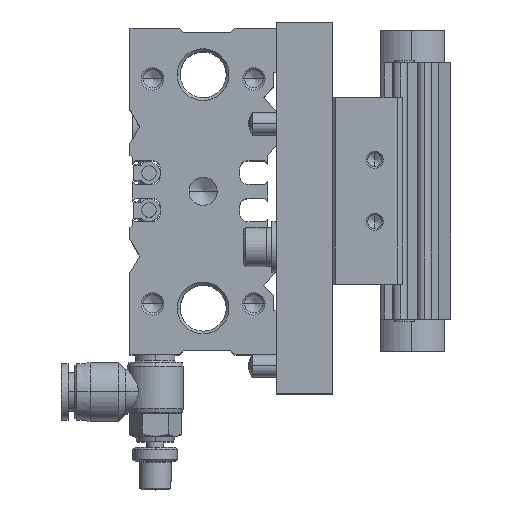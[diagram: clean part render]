
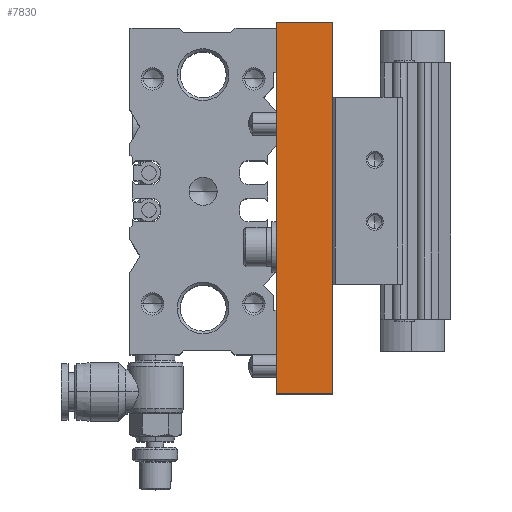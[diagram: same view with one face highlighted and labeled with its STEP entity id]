
A CAD part, top view. The second image highlights one B-rep face of the part: STEP entity #7830.
In plain terms, the highlighted planar face has unit normal (0, 0, 1) as drawn and (0, 1, 0) by its records, which use the part's own axes.
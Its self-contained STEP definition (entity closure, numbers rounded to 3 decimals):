
#417 = VECTOR ( 'NONE', #18205, 1000. ) ;
#635 = EDGE_CURVE ( 'NONE', #17243, #14979, #22818, .T. ) ;
#1192 = DIRECTION ( 'NONE',  ( 0., 0., 1. ) ) ;
#1520 = CARTESIAN_POINT ( 'NONE',  ( 66., 120., 0. ) ) ;
#1712 = ORIENTED_EDGE ( 'NONE', *, *, #4755, .F. ) ;
#2572 = CARTESIAN_POINT ( 'NONE',  ( 0., 120., 10. ) ) ;
#2879 = ORIENTED_EDGE ( 'NONE', *, *, #15925, .F. ) ;
#3436 = VECTOR ( 'NONE', #11821, 1000. ) ;
#3628 = DIRECTION ( 'NONE',  ( -1., 0., 0. ) ) ;
#3687 = CARTESIAN_POINT ( 'NONE',  ( 0., 120., 0. ) ) ;
#4580 = LINE ( 'NONE', #22895, #417 ) ;
#4755 = EDGE_CURVE ( 'NONE', #7165, #17243, #23886, .T. ) ;
#4986 = DIRECTION ( 'NONE',  ( 0., 0., -1. ) ) ;
#5132 = VECTOR ( 'NONE', #1192, 1000. ) ;
#5766 = CARTESIAN_POINT ( 'NONE',  ( 0., 120., 10. ) ) ;
#6258 = EDGE_LOOP ( 'NONE', ( #28599, #26058, #1712, #2879 ) ) ;
#6563 = CARTESIAN_POINT ( 'NONE',  ( 66., 120., 10. ) ) ;
#7165 = VERTEX_POINT ( 'NONE', #3687 ) ;
#7289 = CARTESIAN_POINT ( 'NONE',  ( 0., 120., 0. ) ) ;
#7530 = EDGE_CURVE ( 'NONE', #14979, #26436, #22752, .T. ) ;
#7830 = ADVANCED_FACE ( 'NONE', ( #13294 ), #11704, .F. ) ;
#9368 = DIRECTION ( 'NONE',  ( 0., -1., 0. ) ) ;
#11704 = PLANE ( 'NONE',  #22320 ) ;
#11821 = DIRECTION ( 'NONE',  ( 1., 0., 0. ) ) ;
#11968 = CARTESIAN_POINT ( 'NONE',  ( 66., 120., 10. ) ) ;
#13294 = FACE_OUTER_BOUND ( 'NONE', #6258, .T. ) ;
#14979 = VERTEX_POINT ( 'NONE', #6563 ) ;
#15155 = CARTESIAN_POINT ( 'NONE',  ( 0., 120., 10. ) ) ;
#15925 = EDGE_CURVE ( 'NONE', #26436, #7165, #4580, .T. ) ;
#16816 = VECTOR ( 'NONE', #3628, 1000. ) ;
#17243 = VERTEX_POINT ( 'NONE', #1520 ) ;
#18205 = DIRECTION ( 'NONE',  ( 0., 0., -1. ) ) ;
#22320 = AXIS2_PLACEMENT_3D ( 'NONE', #2572, #9368, #4986 ) ;
#22752 = LINE ( 'NONE', #5766, #16816 ) ;
#22818 = LINE ( 'NONE', #11968, #5132 ) ;
#22895 = CARTESIAN_POINT ( 'NONE',  ( 0., 120., 10. ) ) ;
#23886 = LINE ( 'NONE', #7289, #3436 ) ;
#26058 = ORIENTED_EDGE ( 'NONE', *, *, #635, .F. ) ;
#26436 = VERTEX_POINT ( 'NONE', #15155 ) ;
#28599 = ORIENTED_EDGE ( 'NONE', *, *, #7530, .F. ) ;
